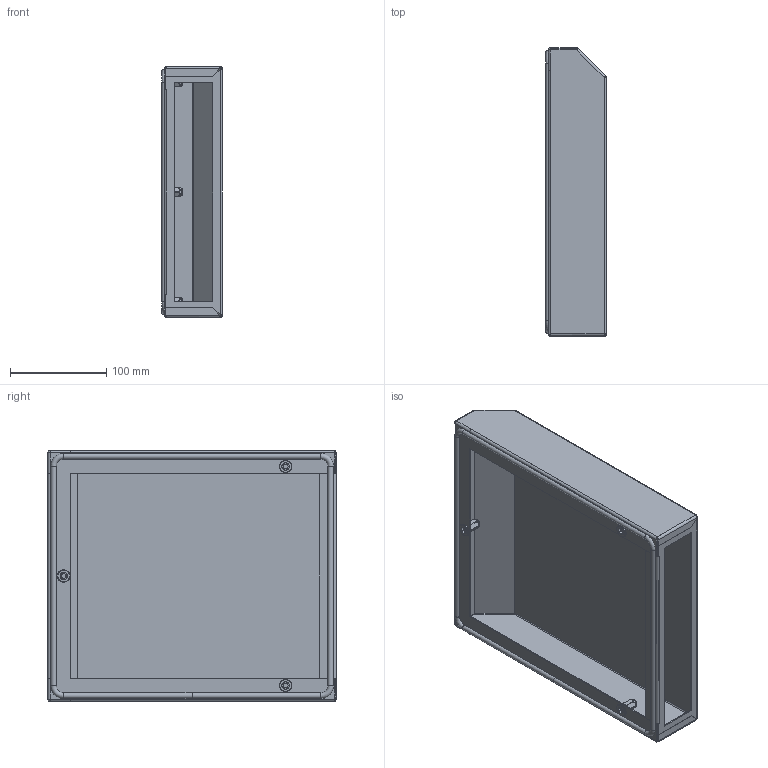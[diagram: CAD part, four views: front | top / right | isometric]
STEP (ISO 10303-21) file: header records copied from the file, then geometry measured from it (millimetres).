
FILE_DESCRIPTION (( 'STEP AP203' ), '1' );
FILE_NAME ('R 13 FA S 01.000 ﾑﾁ ﾊ鮻 鈞隆 蓁 粢炅齏.STEP', '2022-04-19T16:01:01', ( '' ), ( '' ), 'SwSTEP 2.0', 'SolidWorks 2018', '' );
FILE_SCHEMA (( 'CONFIG_CONTROL_DESIGN' ));
Length unit declared in the file: millimetre
Products named in the file (4): R 13 FA S 01.000 ﾑﾁ ﾊ鮻 鈞隆 蓁 粢炅齏; Çàêëåïêà íåðæ. âûòÿæíàÿ ðåçüáîâàÿ øåñòèãðàííàÿ çàêðûòàÿ Ì6_1,4; 逄鋋襡樇鳺 鼨錒膰膼碭嬅R 13 FA S; R 12 FA S 00.001 ﾊ鮻 鈞隆 蓁 粢炅齏_R 13 FA S 00.001 EPLAN
Assembly tree (5 placements, depth 2):
  R 13 FA S 01.000 ﾑﾁ ﾊ鮻 鈞隆 蓁 粢炅齏
    R 12 FA S 00.001 ﾊ鮻 鈞隆 蓁 粢炅齏_R 13 FA S 00.001 EPLAN
    逄鋋襡樇鳺 鼨錒膰膼碭嬅R 13 FA S
    Çàêëåïêà íåðæ. âûòÿæíàÿ ðåçüáîâàÿ øåñòèãðàííàÿ çàêðûòàÿ Ì6_1,4  x3
Bounding box: 63.12 x 298.92 x 260 mm (x, y, z)
Volume: 196987.6 mm3; surface area: 318743.5 mm2
Topology: 5 solids, 5 shells, 464 faces, 1064 edges, 616 vertices
Faces by surface type: plane 147, bspline 116, cylinder 113, torus 52, sphere 24, cone 12
Entity records: 9481 total; most frequent: CARTESIAN_POINT 3574, ORIENTED_EDGE 1160, DIRECTION 1093, EDGE_CURVE 580, AXIS2_PLACEMENT_3D 393, VERTEX_POINT 336, VECTOR 307, LINE 307
